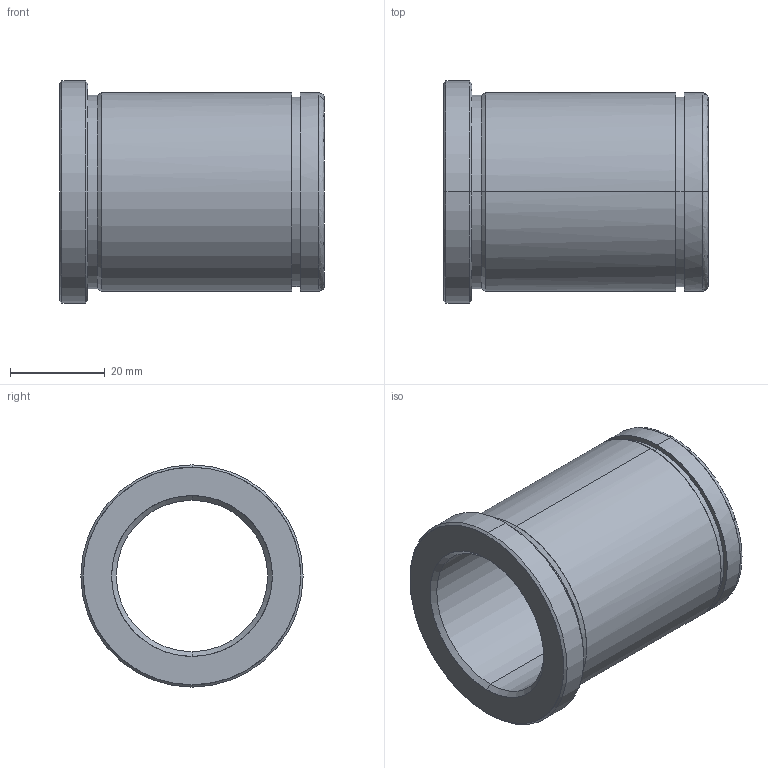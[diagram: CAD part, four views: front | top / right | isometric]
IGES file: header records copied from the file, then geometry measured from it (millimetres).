
Start section: START RECORD GO HERE.
Global section: file name: 553-32X56.igs; native system: DASSAULT SYSTEMES CATIA V5 R20 - www.3ds.com; preprocessor: CATIA Version 5 Release 20 ; author: Utente; organization: NB04-ASUS; date: 20210526.204610; units: millimetre
Bounding box: 56 x 47 x 47 mm (x, y, z)
Surface area: 14977 mm2 (no closed solid volume)
Topology: 0 solids, 0 shells, 29 faces, 184 edges, 184 vertices
Faces by surface type: revolution 24, plane 5
